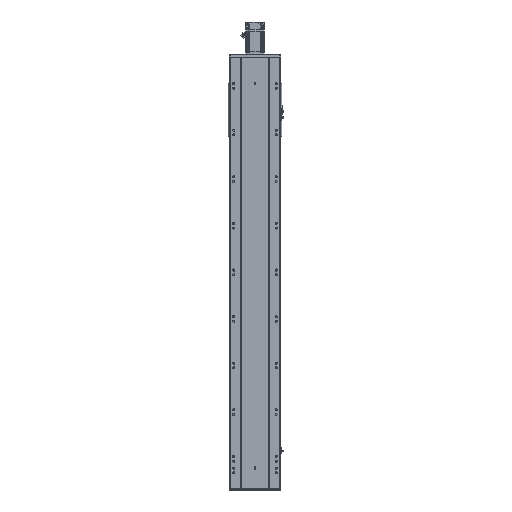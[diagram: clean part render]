
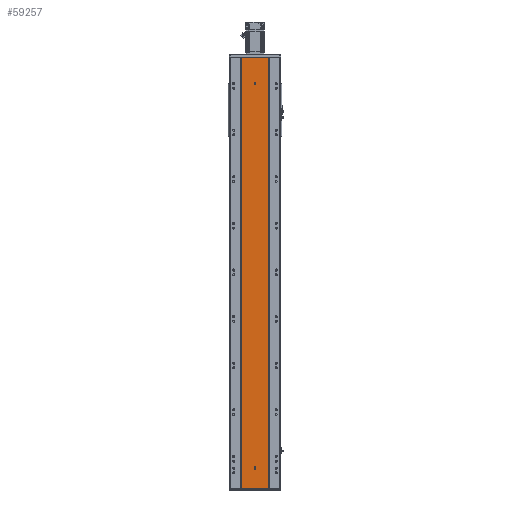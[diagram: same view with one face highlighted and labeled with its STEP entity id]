
A CAD part, front view. The second image highlights one B-rep face of the part: STEP entity #59257.
In plain terms, the highlighted planar face has unit normal (0, -1, 0).
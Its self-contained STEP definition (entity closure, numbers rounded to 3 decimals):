
#522 = DIRECTION ( 'NONE',  ( 0., 0., -1. ) ) ;
#827 = VERTEX_POINT ( 'NONE', #31300 ) ;
#1193 = EDGE_CURVE ( 'NONE', #25701, #15327, #4589, .T. ) ;
#2361 = FACE_BOUND ( 'NONE', #74581, .T. ) ;
#2382 = ORIENTED_EDGE ( 'NONE', *, *, #61618, .F. ) ;
#4589 = LINE ( 'NONE', #52039, #9183 ) ;
#4817 = CARTESIAN_POINT ( 'NONE',  ( 0., 0., 1732. ) ) ;
#5286 = AXIS2_PLACEMENT_3D ( 'NONE', #6932, #24716, #36778 ) ;
#5573 = ORIENTED_EDGE ( 'NONE', *, *, #26538, .F. ) ;
#6004 = VERTEX_POINT ( 'NONE', #27017 ) ;
#6693 = CARTESIAN_POINT ( 'NONE',  ( -4., 0., 84.5 ) ) ;
#6932 = CARTESIAN_POINT ( 'NONE',  ( 0., 0., 1736. ) ) ;
#7187 = AXIS2_PLACEMENT_3D ( 'NONE', #64734, #52635, #18459 ) ;
#7242 = DIRECTION ( 'NONE',  ( 0., -1., 0. ) ) ;
#7492 = CARTESIAN_POINT ( 'NONE',  ( 0., 0., 84.5 ) ) ;
#7799 = ORIENTED_EDGE ( 'NONE', *, *, #20390, .F. ) ;
#9183 = VECTOR ( 'NONE', #29412, 1000. ) ;
#9466 = AXIS2_PLACEMENT_3D ( 'NONE', #39938, #52022, #45865 ) ;
#10231 = PLANE ( 'NONE',  #53517 ) ;
#10716 = CARTESIAN_POINT ( 'NONE',  ( 0., 0., 87.5 ) ) ;
#11228 = AXIS2_PLACEMENT_3D ( 'NONE', #7492, #7242, #25007 ) ;
#12071 = CARTESIAN_POINT ( 'NONE',  ( 60., 0., 0. ) ) ;
#12604 = ORIENTED_EDGE ( 'NONE', *, *, #1193, .F. ) ;
#13114 = VERTEX_POINT ( 'NONE', #35621 ) ;
#13521 = VERTEX_POINT ( 'NONE', #35801 ) ;
#14860 = EDGE_CURVE ( 'NONE', #13521, #827, #38777, .T. ) ;
#15327 = VERTEX_POINT ( 'NONE', #12071 ) ;
#16121 = DIRECTION ( 'NONE',  ( 0., 0., 1. ) ) ;
#16636 = VERTEX_POINT ( 'NONE', #39741 ) ;
#16979 = VERTEX_POINT ( 'NONE', #48468 ) ;
#18459 = DIRECTION ( 'NONE',  ( 0., 0., -1. ) ) ;
#18522 = CARTESIAN_POINT ( 'NONE',  ( -60., 0., 0. ) ) ;
#18866 = VECTOR ( 'NONE', #53365, 1000. ) ;
#20390 = EDGE_CURVE ( 'NONE', #827, #74679, #45517, .T. ) ;
#22786 = CARTESIAN_POINT ( 'NONE',  ( -60., 0., 1850. ) ) ;
#23725 = VECTOR ( 'NONE', #41267, 1000. ) ;
#24716 = DIRECTION ( 'NONE',  ( 0., -1., 0. ) ) ;
#25007 = DIRECTION ( 'NONE',  ( 0., 0., -1. ) ) ;
#25123 = VERTEX_POINT ( 'NONE', #50663 ) ;
#25701 = VERTEX_POINT ( 'NONE', #45429 ) ;
#26538 = EDGE_CURVE ( 'NONE', #13114, #25123, #35440, .T. ) ;
#27017 = CARTESIAN_POINT ( 'NONE',  ( 0., 0., 1740. ) ) ;
#27049 = CIRCLE ( 'NONE', #7187, 4. ) ;
#27418 = EDGE_CURVE ( 'NONE', #50449, #6004, #27049, .T. ) ;
#28965 = DIRECTION ( 'NONE',  ( 0., 0., -1. ) ) ;
#29412 = DIRECTION ( 'NONE',  ( 0., 0., -1. ) ) ;
#29996 = FACE_BOUND ( 'NONE', #35155, .T. ) ;
#31237 = EDGE_LOOP ( 'NONE', ( #32675, #12604, #42646, #75069 ) ) ;
#31300 = CARTESIAN_POINT ( 'NONE',  ( -4., 0., 84.5 ) ) ;
#32675 = ORIENTED_EDGE ( 'NONE', *, *, #73164, .T. ) ;
#32702 = LINE ( 'NONE', #40684, #63113 ) ;
#35155 = EDGE_LOOP ( 'NONE', ( #51003, #2382 ) ) ;
#35440 = LINE ( 'NONE', #53108, #18866 ) ;
#35524 = DIRECTION ( 'NONE',  ( 1., 0., 0. ) ) ;
#35621 = CARTESIAN_POINT ( 'NONE',  ( 4., 0., 84.5 ) ) ;
#35801 = CARTESIAN_POINT ( 'NONE',  ( -4., 0., 87.5 ) ) ;
#36778 = DIRECTION ( 'NONE',  ( 0., 0., -1. ) ) ;
#38777 = LINE ( 'NONE', #6693, #47057 ) ;
#39741 = CARTESIAN_POINT ( 'NONE',  ( -60., 0., 1850. ) ) ;
#39938 = CARTESIAN_POINT ( 'NONE',  ( 0., 0., 84.5 ) ) ;
#40667 = LINE ( 'NONE', #18522, #69221 ) ;
#40684 = CARTESIAN_POINT ( 'NONE',  ( -60., 0., 1850. ) ) ;
#41267 = DIRECTION ( 'NONE',  ( 0., 0., -1. ) ) ;
#42646 = ORIENTED_EDGE ( 'NONE', *, *, #67643, .F. ) ;
#45429 = CARTESIAN_POINT ( 'NONE',  ( 60., 0., 1850. ) ) ;
#45517 = CIRCLE ( 'NONE', #11228, 4. ) ;
#45865 = DIRECTION ( 'NONE',  ( 0., 0., -1. ) ) ;
#46970 = DIRECTION ( 'NONE',  ( 0., -1., 0. ) ) ;
#47057 = VECTOR ( 'NONE', #522, 1000. ) ;
#47343 = AXIS2_PLACEMENT_3D ( 'NONE', #10716, #46970, #28965 ) ;
#48389 = CARTESIAN_POINT ( 'NONE',  ( 0., 0., 80.5 ) ) ;
#48468 = CARTESIAN_POINT ( 'NONE',  ( -60., 0., 0. ) ) ;
#50449 = VERTEX_POINT ( 'NONE', #4817 ) ;
#50663 = CARTESIAN_POINT ( 'NONE',  ( 4., 0., 87.5 ) ) ;
#51003 = ORIENTED_EDGE ( 'NONE', *, *, #27418, .F. ) ;
#52022 = DIRECTION ( 'NONE',  ( 0., -1., 0. ) ) ;
#52039 = CARTESIAN_POINT ( 'NONE',  ( 60., 0., 1850. ) ) ;
#52635 = DIRECTION ( 'NONE',  ( 0., -1., 0. ) ) ;
#52939 = CIRCLE ( 'NONE', #5286, 4. ) ;
#53108 = CARTESIAN_POINT ( 'NONE',  ( 4., 0., 84.5 ) ) ;
#53365 = DIRECTION ( 'NONE',  ( 0., 0., 1. ) ) ;
#53428 = EDGE_CURVE ( 'NONE', #25123, #13521, #55492, .T. ) ;
#53517 = AXIS2_PLACEMENT_3D ( 'NONE', #57020, #57543, #16121 ) ;
#55492 = CIRCLE ( 'NONE', #47343, 4. ) ;
#55947 = EDGE_CURVE ( 'NONE', #74679, #13114, #68933, .T. ) ;
#57020 = CARTESIAN_POINT ( 'NONE',  ( -60., 0., 1850. ) ) ;
#57543 = DIRECTION ( 'NONE',  ( 0., 1., 0. ) ) ;
#57708 = LINE ( 'NONE', #22786, #23725 ) ;
#59235 = ORIENTED_EDGE ( 'NONE', *, *, #55947, .F. ) ;
#59257 = ADVANCED_FACE ( 'NONE', ( #29996, #2361, #65859 ), #10231, .F. ) ;
#59670 = DIRECTION ( 'NONE',  ( 1., 0., 0. ) ) ;
#61618 = EDGE_CURVE ( 'NONE', #6004, #50449, #52939, .T. ) ;
#63113 = VECTOR ( 'NONE', #35524, 1000. ) ;
#64734 = CARTESIAN_POINT ( 'NONE',  ( 0., 0., 1736. ) ) ;
#65859 = FACE_OUTER_BOUND ( 'NONE', #31237, .T. ) ;
#67643 = EDGE_CURVE ( 'NONE', #16636, #25701, #32702, .T. ) ;
#68289 = ORIENTED_EDGE ( 'NONE', *, *, #14860, .F. ) ;
#68681 = EDGE_CURVE ( 'NONE', #16636, #16979, #57708, .T. ) ;
#68933 = CIRCLE ( 'NONE', #9466, 4. ) ;
#69221 = VECTOR ( 'NONE', #59670, 1000. ) ;
#73164 = EDGE_CURVE ( 'NONE', #16979, #15327, #40667, .T. ) ;
#73367 = ORIENTED_EDGE ( 'NONE', *, *, #53428, .F. ) ;
#74581 = EDGE_LOOP ( 'NONE', ( #5573, #59235, #7799, #68289, #73367 ) ) ;
#74679 = VERTEX_POINT ( 'NONE', #48389 ) ;
#75069 = ORIENTED_EDGE ( 'NONE', *, *, #68681, .T. ) ;
